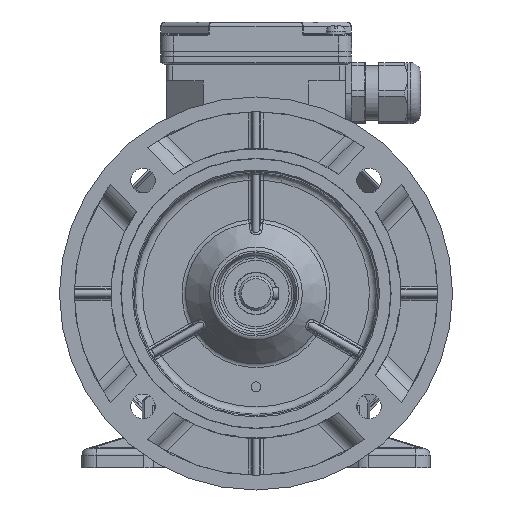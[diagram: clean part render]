
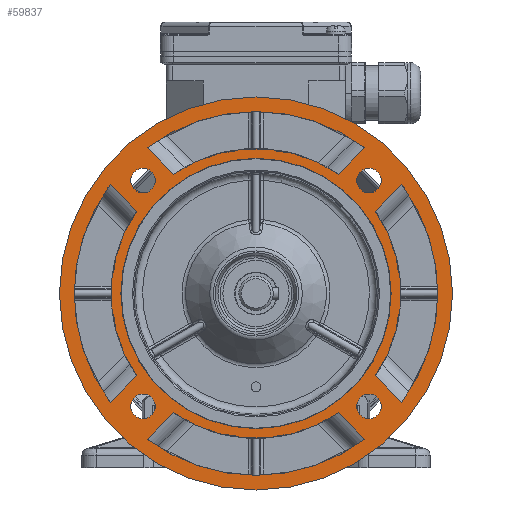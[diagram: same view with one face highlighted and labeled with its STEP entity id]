
A CAD part, front view. The second image highlights one B-rep face of the part: STEP entity #59837.
In plain terms, the highlighted planar face has unit normal (0, -1, 0).
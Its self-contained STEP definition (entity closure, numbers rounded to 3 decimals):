
#4222=CIRCLE('',#63108,59.);
#4223=CIRCLE('',#63111,74.);
#4224=CIRCLE('',#63114,59.);
#4225=CIRCLE('',#63117,74.);
#4226=CIRCLE('',#63119,55.);
#4227=CIRCLE('',#63122,59.);
#4228=CIRCLE('',#63125,74.);
#4229=CIRCLE('',#63127,59.);
#4230=CIRCLE('',#63130,74.);
#4233=CIRCLE('',#63136,80.);
#4234=CIRCLE('',#63138,5.);
#4235=CIRCLE('',#63139,5.);
#4236=CIRCLE('',#63140,5.);
#4237=CIRCLE('',#63141,5.);
#11019=ORIENTED_EDGE('',*,*,#21101,.F.);
#11020=ORIENTED_EDGE('',*,*,#21102,.F.);
#11021=ORIENTED_EDGE('',*,*,#21103,.F.);
#11022=ORIENTED_EDGE('',*,*,#21104,.F.);
#11023=ORIENTED_EDGE('',*,*,#21097,.F.);
#11024=ORIENTED_EDGE('',*,*,#21095,.F.);
#11025=ORIENTED_EDGE('',*,*,#21094,.T.);
#11026=ORIENTED_EDGE('',*,*,#21091,.T.);
#11027=ORIENTED_EDGE('',*,*,#21089,.F.);
#11028=ORIENTED_EDGE('',*,*,#21087,.T.);
#11029=ORIENTED_EDGE('',*,*,#21085,.T.);
#11030=ORIENTED_EDGE('',*,*,#21083,.F.);
#11031=ORIENTED_EDGE('',*,*,#21081,.F.);
#11032=ORIENTED_EDGE('',*,*,#21080,.F.);
#11033=ORIENTED_EDGE('',*,*,#21079,.T.);
#11034=ORIENTED_EDGE('',*,*,#21076,.T.);
#11035=ORIENTED_EDGE('',*,*,#21074,.F.);
#11036=ORIENTED_EDGE('',*,*,#21072,.F.);
#11037=ORIENTED_EDGE('',*,*,#21071,.T.);
#11038=ORIENTED_EDGE('',*,*,#21068,.T.);
#11039=ORIENTED_EDGE('',*,*,#21067,.F.);
#11040=ORIENTED_EDGE('',*,*,#21100,.T.);
#21067=EDGE_CURVE('',#26551,#26550,#30192,.T.);
#21068=EDGE_CURVE('',#26552,#26550,#4222,.T.);
#21071=EDGE_CURVE('',#26553,#26552,#30193,.T.);
#21072=EDGE_CURVE('',#26553,#26551,#4223,.T.);
#21074=EDGE_CURVE('',#26554,#26555,#30194,.T.);
#21076=EDGE_CURVE('',#26556,#26555,#4224,.T.);
#21079=EDGE_CURVE('',#26557,#26556,#30195,.T.);
#21080=EDGE_CURVE('',#26557,#26554,#4225,.T.);
#21081=EDGE_CURVE('',#26558,#26558,#4226,.T.);
#21083=EDGE_CURVE('',#26559,#26560,#30196,.T.);
#21085=EDGE_CURVE('',#26561,#26560,#4227,.T.);
#21087=EDGE_CURVE('',#26562,#26561,#30197,.T.);
#21089=EDGE_CURVE('',#26562,#26559,#4228,.T.);
#21091=EDGE_CURVE('',#26564,#26563,#4229,.T.);
#21094=EDGE_CURVE('',#26565,#26564,#30198,.T.);
#21095=EDGE_CURVE('',#26565,#26566,#4230,.T.);
#21097=EDGE_CURVE('',#26566,#26563,#30199,.T.);
#21100=EDGE_CURVE('',#26569,#26569,#4233,.T.);
#21101=EDGE_CURVE('',#26570,#26570,#4234,.T.);
#21102=EDGE_CURVE('',#26571,#26571,#4235,.T.);
#21103=EDGE_CURVE('',#26572,#26572,#4236,.T.);
#21104=EDGE_CURVE('',#26573,#26573,#4237,.T.);
#26550=VERTEX_POINT('',#88141);
#26551=VERTEX_POINT('',#88146);
#26552=VERTEX_POINT('',#88150);
#26553=VERTEX_POINT('',#88160);
#26554=VERTEX_POINT('',#88169);
#26555=VERTEX_POINT('',#88171);
#26556=VERTEX_POINT('',#88178);
#26557=VERTEX_POINT('',#88188);
#26558=VERTEX_POINT('',#88194);
#26559=VERTEX_POINT('',#88200);
#26560=VERTEX_POINT('',#88202);
#26561=VERTEX_POINT('',#88209);
#26562=VERTEX_POINT('',#88216);
#26563=VERTEX_POINT('',#88228);
#26564=VERTEX_POINT('',#88230);
#26565=VERTEX_POINT('',#88240);
#26566=VERTEX_POINT('',#88244);
#26569=VERTEX_POINT('',#88258);
#26570=VERTEX_POINT('',#88261);
#26571=VERTEX_POINT('',#88263);
#26572=VERTEX_POINT('',#88265);
#26573=VERTEX_POINT('',#88267);
#30192=LINE('',#88147,#33055);
#30193=LINE('',#88161,#33056);
#30194=LINE('',#88170,#33057);
#30195=LINE('',#88189,#33058);
#30196=LINE('',#88201,#33059);
#30197=LINE('',#88215,#33060);
#30198=LINE('',#88241,#33061);
#30199=LINE('',#88250,#33062);
#33055=VECTOR('',#70564,1000.);
#33056=VECTOR('',#70571,1000.);
#33057=VECTOR('',#70578,1000.);
#33058=VECTOR('',#70585,1000.);
#33059=VECTOR('',#70596,1000.);
#33060=VECTOR('',#70603,1000.);
#33061=VECTOR('',#70614,1000.);
#33062=VECTOR('',#70621,1000.);
#35953=EDGE_LOOP('',(#11019));
#35954=EDGE_LOOP('',(#11020));
#35955=EDGE_LOOP('',(#11021));
#35956=EDGE_LOOP('',(#11022));
#35957=EDGE_LOOP('',(#11023,#11024,#11025,#11026));
#35958=EDGE_LOOP('',(#11027,#11028,#11029,#11030));
#35959=EDGE_LOOP('',(#11031));
#35960=EDGE_LOOP('',(#11032,#11033,#11034,#11035));
#35961=EDGE_LOOP('',(#11036,#11037,#11038,#11039));
#35962=EDGE_LOOP('',(#11040));
#38838=FACE_BOUND('',#35953,.T.);
#38839=FACE_BOUND('',#35954,.T.);
#38840=FACE_BOUND('',#35955,.T.);
#38841=FACE_BOUND('',#35956,.T.);
#38842=FACE_BOUND('',#35957,.T.);
#38843=FACE_BOUND('',#35958,.T.);
#38844=FACE_BOUND('',#35959,.T.);
#38845=FACE_BOUND('',#35960,.T.);
#38846=FACE_BOUND('',#35961,.T.);
#38847=FACE_BOUND('',#35962,.T.);
#40793=PLANE('',#63137);
#59837=ADVANCED_FACE('',(#38838,#38839,#38840,#38841,#38842,#38843,#38844,
#38845,#38846,#38847),#40793,.F.);
#63108=AXIS2_PLACEMENT_3D('',#88149,#70567,#70568);
#63111=AXIS2_PLACEMENT_3D('',#88163,#70574,#70575);
#63114=AXIS2_PLACEMENT_3D('',#88177,#70581,#70582);
#63117=AXIS2_PLACEMENT_3D('',#88191,#70588,#70589);
#63119=AXIS2_PLACEMENT_3D('',#88193,#70592,#70593);
#63122=AXIS2_PLACEMENT_3D('',#88208,#70599,#70600);
#63125=AXIS2_PLACEMENT_3D('',#88222,#70606,#70607);
#63127=AXIS2_PLACEMENT_3D('',#88229,#70610,#70611);
#63130=AXIS2_PLACEMENT_3D('',#88243,#70617,#70618);
#63136=AXIS2_PLACEMENT_3D('',#88257,#70630,#70631);
#63137=AXIS2_PLACEMENT_3D('',#88259,#70632,#70633);
#63138=AXIS2_PLACEMENT_3D('',#88260,#70634,#70635);
#63139=AXIS2_PLACEMENT_3D('',#88262,#70636,#70637);
#63140=AXIS2_PLACEMENT_3D('',#88264,#70638,#70639);
#63141=AXIS2_PLACEMENT_3D('',#88266,#70640,#70641);
#70564=DIRECTION('',(-0.707,0.,-0.707));
#70567=DIRECTION('',(0.,-1.,0.));
#70568=DIRECTION('',(0.,0.,-1.));
#70571=DIRECTION('',(-0.707,0.,0.707));
#70574=DIRECTION('',(0.,-1.,0.));
#70575=DIRECTION('',(0.,0.,-1.));
#70578=DIRECTION('',(-0.707,0.,0.707));
#70581=DIRECTION('',(0.,-1.,0.));
#70582=DIRECTION('',(0.,0.,-1.));
#70585=DIRECTION('',(0.707,0.,0.707));
#70588=DIRECTION('',(0.,-1.,0.));
#70589=DIRECTION('',(0.,0.,-1.));
#70592=DIRECTION('',(0.,-1.,0.));
#70593=DIRECTION('',(0.,0.,-1.));
#70596=DIRECTION('',(0.707,0.,0.707));
#70599=DIRECTION('',(0.,-1.,0.));
#70600=DIRECTION('',(0.,0.,-1.));
#70603=DIRECTION('',(0.707,0.,-0.707));
#70606=DIRECTION('',(0.,-1.,0.));
#70607=DIRECTION('',(0.,0.,-1.));
#70610=DIRECTION('',(0.,-1.,0.));
#70611=DIRECTION('',(0.,0.,-1.));
#70614=DIRECTION('',(-0.707,0.,-0.707));
#70617=DIRECTION('',(0.,-1.,0.));
#70618=DIRECTION('',(0.,0.,-1.));
#70621=DIRECTION('',(0.707,0.,-0.707));
#70630=DIRECTION('',(0.,-1.,0.));
#70631=DIRECTION('',(0.,0.,-1.));
#70632=DIRECTION('',(0.,1.,0.));
#70633=DIRECTION('',(0.,0.,1.));
#70634=DIRECTION('',(0.,-1.,0.));
#70635=DIRECTION('',(1.,0.,0.));
#70636=DIRECTION('',(0.,-1.,0.));
#70637=DIRECTION('',(1.,0.,0.));
#70638=DIRECTION('',(0.,-1.,0.));
#70639=DIRECTION('',(1.,0.,0.));
#70640=DIRECTION('',(0.,-1.,0.));
#70641=DIRECTION('',(1.,0.,0.));
#88141=CARTESIAN_POINT('',(48.549,-41.,33.526));
#88146=CARTESIAN_POINT('',(59.295,-41.,44.273));
#88147=CARTESIAN_POINT('',(59.837,-41.,44.815));
#88149=CARTESIAN_POINT('',(0.,-41.,0.));
#88150=CARTESIAN_POINT('',(48.549,-41.,-33.526));
#88160=CARTESIAN_POINT('',(59.295,-41.,-44.273));
#88161=CARTESIAN_POINT('',(59.837,-41.,-44.815));
#88163=CARTESIAN_POINT('',(0.,-41.,0.));
#88169=CARTESIAN_POINT('',(44.273,-41.,-59.295));
#88170=CARTESIAN_POINT('',(44.815,-41.,-59.837));
#88171=CARTESIAN_POINT('',(33.526,-41.,-48.549));
#88177=CARTESIAN_POINT('',(0.,-41.,0.));
#88178=CARTESIAN_POINT('',(-33.526,-41.,-48.549));
#88188=CARTESIAN_POINT('',(-44.273,-41.,-59.295));
#88189=CARTESIAN_POINT('',(-44.815,-41.,-59.837));
#88191=CARTESIAN_POINT('',(0.,-41.,0.));
#88193=CARTESIAN_POINT('',(0.,-41.,0.));
#88194=CARTESIAN_POINT('',(0.,-41.,-55.));
#88200=CARTESIAN_POINT('',(-59.295,-41.,-44.273));
#88201=CARTESIAN_POINT('',(-59.837,-41.,-44.815));
#88202=CARTESIAN_POINT('',(-48.549,-41.,-33.526));
#88208=CARTESIAN_POINT('',(0.,-41.,0.));
#88209=CARTESIAN_POINT('',(-48.549,-41.,33.526));
#88215=CARTESIAN_POINT('',(-59.837,-41.,44.815));
#88216=CARTESIAN_POINT('',(-59.295,-41.,44.273));
#88222=CARTESIAN_POINT('',(0.,-41.,0.));
#88228=CARTESIAN_POINT('',(-33.526,-41.,48.549));
#88229=CARTESIAN_POINT('',(0.,-41.,0.));
#88230=CARTESIAN_POINT('',(33.526,-41.,48.549));
#88240=CARTESIAN_POINT('',(44.273,-41.,59.295));
#88241=CARTESIAN_POINT('',(44.815,-41.,59.837));
#88243=CARTESIAN_POINT('',(0.,-41.,0.));
#88244=CARTESIAN_POINT('',(-44.273,-41.,59.295));
#88250=CARTESIAN_POINT('',(-44.815,-41.,59.837));
#88257=CARTESIAN_POINT('',(0.,-41.,0.));
#88258=CARTESIAN_POINT('',(0.,-41.,-80.));
#88259=CARTESIAN_POINT('',(0.,-41.,55.));
#88260=CARTESIAN_POINT('',(45.962,-41.,45.962));
#88261=CARTESIAN_POINT('',(50.962,-41.,45.962));
#88262=CARTESIAN_POINT('',(45.962,-41.,-45.962));
#88263=CARTESIAN_POINT('',(50.962,-41.,-45.962));
#88264=CARTESIAN_POINT('',(-45.962,-41.,-45.962));
#88265=CARTESIAN_POINT('',(-40.962,-41.,-45.962));
#88266=CARTESIAN_POINT('',(-45.962,-41.,45.962));
#88267=CARTESIAN_POINT('',(-40.962,-41.,45.962));
